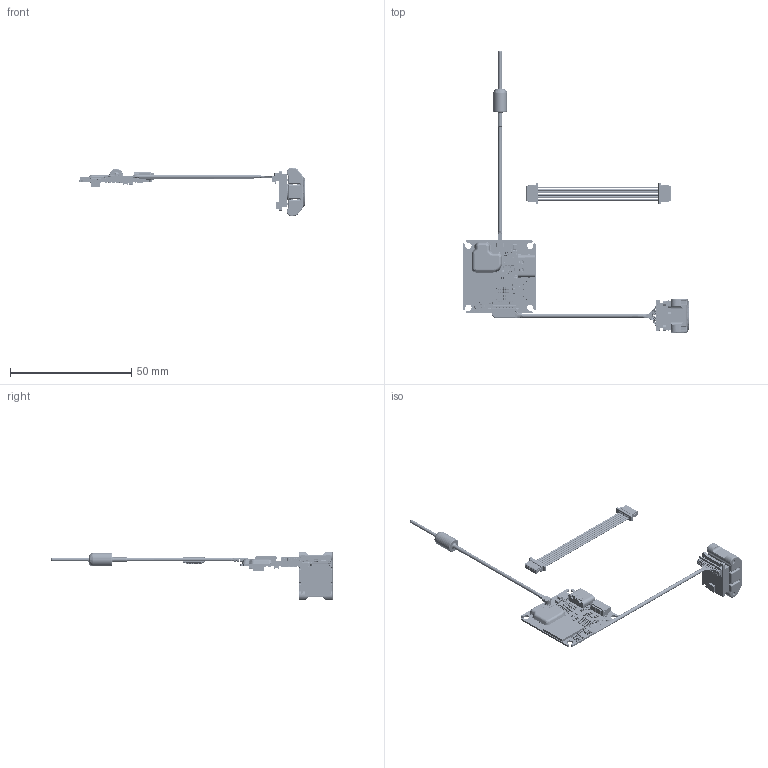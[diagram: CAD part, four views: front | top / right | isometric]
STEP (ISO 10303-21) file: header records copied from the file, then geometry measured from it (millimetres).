
FILE_DESCRIPTION(/* description */ ('','CAx-IF Rec.Pracs.---Representation and Presentation of Product Manufacturing Information (PMI)---4.0---2014-10-13'),/* implementation_level */ '2;1');
FILE_NAME(/* name */ 'DJI o4 Lite (v1).step',/* time_stamp */ '2025-02-11T15:12:36-08:00',/* author */ (''),/* organization */ (''),/* preprocessor_version */ 'ST-DEVELOPER v20',/* originating_system */ 'Autodesk Translation Framework v13.20.0.188',/* authorisation */ '');
FILE_SCHEMA (('AP242_MANAGED_MODEL_BASED_3D_ENGINEERING_MIM_LF { 1 0 10303 442 1 1 4 }'));
Products named in the file (29): DJI o4 Lite; DJI o4 Lite VTX; Underside Rough; R1(Mirror); C1(Mirror); Top Side PCB; 1; R1; R3; R2; C1; Component7; SH1.0 6pin 90 v2; BM6B-SRSS-TB v1; USB C VTX Adapter_USB-C v3; VTX_MIPI v1; 20498-026E-00C RECE ASS'Y IGES R2 ALL; u.Fl Connector; DJI o4 Lite Cam; VTX_MIPI v1 (1); 20498-026E-00C RECE ASS'Y IGES R2 ALL (1); o4 Lite Cam Housing ; DJI O4 Lite Antenna; 026xxxC MIPI PLUG CABLE ASS'Y v2; 026xxxC MIPI PLUG CABLE ASS'Y; 026xxxC MIPI PLUG CABLE ASS'Y(Mirror); SH1.0 6p Tabbed Plug v2; SHR-06V-S-B v1; SHR-06V-S-B v1(Mirror)
Assembly tree (23 placements, depth 5):
  DJI o4 Lite
    DJI o4 Lite VTX
      Underside Rough
        R1(Mirror)
        C1(Mirror)
      Top Side PCB
        1
        R1
        R3
        R2
        C1
        Component7
        SH1.0 6pin 90 v2
          BM6B-SRSS-TB v1
        USB C VTX Adapter_USB-C v3
        VTX_MIPI v1
        u.Fl Connector
    DJI o4 Lite Cam
      VTX_MIPI v1 (1)
      o4 Lite Cam Housing 
    DJI O4 Lite Antenna
    SH1.0 6p Tabbed Plug v2
      SHR-06V-S-B v1
      SHR-06V-S-B v1(Mirror)
  20498-026E-00C RECE ASS'Y IGES R2 ALL
  20498-026E-00C RECE ASS'Y IGES R2 ALL (1)
  026xxxC MIPI PLUG CABLE ASS'Y v2
  026xxxC MIPI PLUG CABLE ASS'Y
Bounding box: 93.21 x 115.87 x 20.1 mm (x, y, z)
Volume: 4052.2 mm3; surface area: 10380.3 mm2
Topology: 707 solids, 727 shells, 18095 faces, 43752 edges, 26975 vertices
Faces by surface type: plane 10018, cylinder 5390, sphere 1748, bspline 523, cone 308, torus 108
Full cylindrical faces by diameter (mm): 0.2 x33, 0.26 x26, 0.4 x12, 0.45 x1, 0.8 x24, 1 x13, 1.385 x1, 1.5 x1, 1.6 x1, 1.627 x1, 1.65 x4, 1.75 x1, 1.8 x1, 1.95 x1, 2 x3, 2.4 x1, 4.122 x1, 5.6 x1, 6.8 x1, 7.2 x1, 8.5 x1, 8.59 x1
Entity records: 545776 total; most frequent: CARTESIAN_POINT 118069, DIRECTION 89518, ORIENTED_EDGE 87412, EDGE_CURVE 43706, LINE 30318, VECTOR 30318, AXIS2_PLACEMENT_3D 29600, VERTEX_POINT 26975
